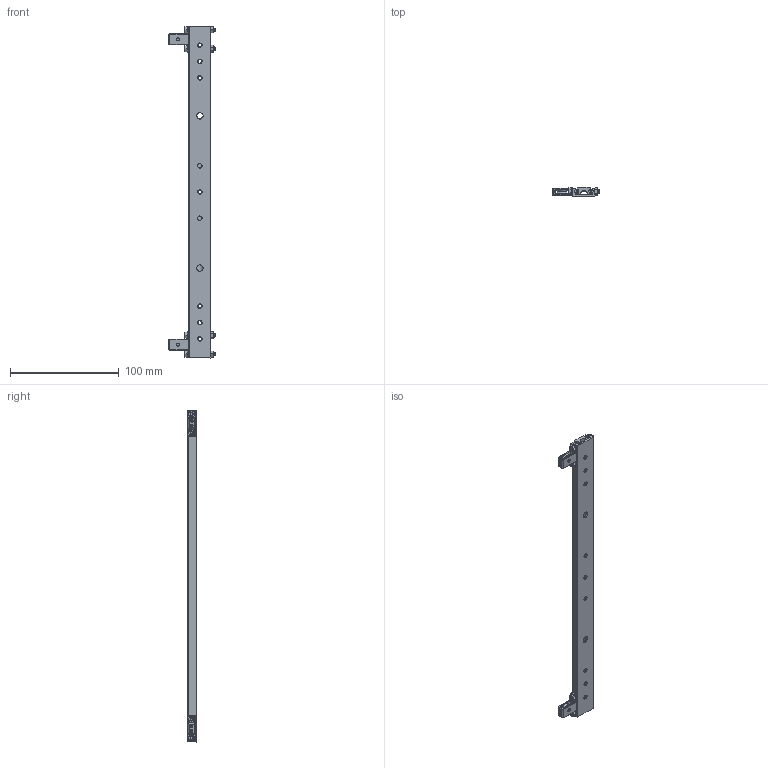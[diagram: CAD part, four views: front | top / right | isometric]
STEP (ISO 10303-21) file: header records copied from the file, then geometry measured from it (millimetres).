
FILE_DESCRIPTION( ('This file contains a STEP AP42 implementation' ,'as created by ZW3D STEP Interface translator.') ,'2;1' );
FILE_NAME( 'BL-300C-2M.stp' ,'231031.194839', (''), ('ZWCAD Software Co.'), 'Version 1.0', 'ZW3D to STEP translator', '' );
FILE_SCHEMA(('AUTOMOTIVE_DESIGN { 1 0 10303 214 1 1 1 1 }'));
Length unit declared in the file: millimetre
Products named in the file (13): 0; BL-300C-2M; OuterSlide300C; StopperScrew; BallBearing; PulleyModule; VPulley; NoHeadScrew001; PulleyBracketV4; PulleyModule1; M3; M2; InnerSlide300C
Assembly tree (58 placements, depth 3):
  0
  BL-300C-2M
    OuterSlide300C
    StopperScrew  x8
    BallBearing  x30
    PulleyModule
      VPulley
      NoHeadScrew001
      PulleyBracketV4
    PulleyModule1
      VPulley
      NoHeadScrew001
      PulleyBracketV4
    M3  x8
    M2  x2
    InnerSlide300C
Bounding box: 42.55 x 8.18 x 304.8 mm (x, y, z)
Volume: 33897.7 mm3; surface area: 40954.7 mm2
Topology: 62 solids, 64 shells, 1409 faces, 3661 edges, 2294 vertices
Faces by surface type: cylinder 597, cone 304, plane 237, bspline 190, sphere 60, torus 21
Full cylindrical faces by diameter (mm): 2 x33, 2.5 x16, 3 x104, 3.05 x4, 3.6 x63, 6 x3
Entity records: 40696 total; most frequent: CARTESIAN_POINT 27323, ORIENTED_EDGE 3092, DIRECTION 2003, EDGE_CURVE 1548, VERTEX_POINT 993, AXIS2_PLACEMENT_3D 765, EDGE_LOOP 644, FACE_OUTER_BOUND 572
